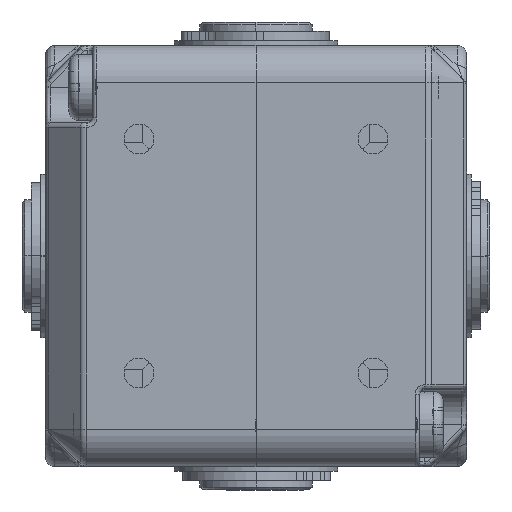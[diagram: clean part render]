
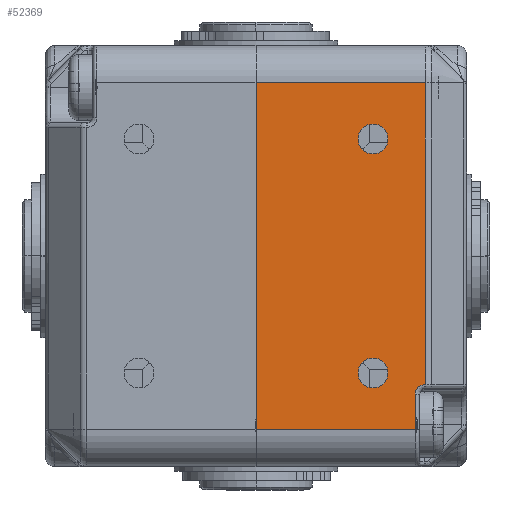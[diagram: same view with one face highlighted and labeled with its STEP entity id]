
A CAD part, front view. The second image highlights one B-rep face of the part: STEP entity #52369.
In plain terms, the highlighted planar face has unit normal (0, -1, 0).
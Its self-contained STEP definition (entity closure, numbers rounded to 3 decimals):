
#88 = VERTEX_POINT ( 'NONE', #4644 ) ;
#471 = DIRECTION ( 'NONE',  ( 0., 1., 0. ) ) ;
#692 = DIRECTION ( 'NONE',  ( 1., 0., 0. ) ) ;
#819 = DIRECTION ( 'NONE',  ( -1., 0., 0. ) ) ;
#1059 = CARTESIAN_POINT ( 'NONE',  ( 11.796, -63.934, -14.264 ) ) ;
#1251 = CARTESIAN_POINT ( 'NONE',  ( 11.96, -63.934, -14.046 ) ) ;
#1260 = CARTESIAN_POINT ( 'NONE',  ( 12.756, -63.934, 18.5 ) ) ;
#1415 = DIRECTION ( 'NONE',  ( 0., 0., 1. ) ) ;
#2126 = EDGE_CURVE ( 'NONE', #24382, #6854, #22693, .T. ) ;
#2215 = LINE ( 'NONE', #11798, #24566 ) ;
#2259 = VERTEX_POINT ( 'NONE', #38461 ) ;
#2901 = DIRECTION ( 'NONE',  ( 0., 1., 0. ) ) ;
#3398 = CARTESIAN_POINT ( 'NONE',  ( 12.67, -63.934, -13.75 ) ) ;
#3869 = FACE_BOUND ( 'NONE', #4847, .T. ) ;
#4009 = VERTEX_POINT ( 'NONE', #5147 ) ;
#4644 = CARTESIAN_POINT ( 'NONE',  ( 7.17, -63.934, -10.9 ) ) ;
#4847 = EDGE_LOOP ( 'NONE', ( #9880, #18054 ) ) ;
#4964 = B_SPLINE_CURVE_WITH_KNOTS ( 'NONE', 3,
 ( #5027, #30271, #38736, #13480, #42866, #17739, #47081, #22019, #51296, #26222, #1059, #30446, #5221, #34660, #9403, #38918, #13670, #43053, #17928, #47278, #22205, #51476, #26420, #1251, #30641, #5385, #34855, #9576, #39098, #13846, #43242 ),
 .UNSPECIFIED., .F., .F.,
 ( 4, 1, 1, 1, 2, 2, 1, 1, 1, 1, 2, 2, 1, 1, 1, 1, 2, 2, 2, 2, 4 ),
 ( 0., 0.062, 0.094, 0.109, 0.117, 0.125, 0.187, 0.219, 0.234, 0.242, 0.246, 0.25, 0.375, 0.437, 0.469, 0.484, 0.492, 0.5, 0.625, 0.75, 1. ),
 .UNSPECIFIED. ) ;
#5027 = CARTESIAN_POINT ( 'NONE',  ( 11.67, -63.934, -14.75 ) ) ;
#5147 = CARTESIAN_POINT ( 'NONE',  ( -5.33, -63.934, 18.5 ) ) ;
#5221 = CARTESIAN_POINT ( 'NONE',  ( 11.823, -63.934, -14.218 ) ) ;
#5385 = CARTESIAN_POINT ( 'NONE',  ( 12.06, -63.934, -13.955 ) ) ;
#5677 = VERTEX_POINT ( 'NONE', #22619 ) ;
#6854 = VERTEX_POINT ( 'NONE', #29873 ) ;
#7909 = CIRCLE ( 'NONE', #37996, 1.6 ) ;
#8032 = VECTOR ( 'NONE', #19936, 1000. ) ;
#9403 = CARTESIAN_POINT ( 'NONE',  ( 11.83, -63.934, -14.207 ) ) ;
#9561 = AXIS2_PLACEMENT_3D ( 'NONE', #25615, #471, #29837 ) ;
#9576 = CARTESIAN_POINT ( 'NONE',  ( 12.227, -63.934, -13.851 ) ) ;
#9880 = ORIENTED_EDGE ( 'NONE', *, *, #34187, .T. ) ;
#10077 = VECTOR ( 'NONE', #51013, 1000. ) ;
#10082 = DIRECTION ( 'NONE',  ( 0., 0., -1. ) ) ;
#10278 = ORIENTED_EDGE ( 'NONE', *, *, #10665, .F. ) ;
#10665 = EDGE_CURVE ( 'NONE', #45293, #6854, #21972, .T. ) ;
#11467 = VERTEX_POINT ( 'NONE', #33647 ) ;
#11505 = DIRECTION ( 'NONE',  ( 0., 1., 0. ) ) ;
#11798 = CARTESIAN_POINT ( 'NONE',  ( 3.713, -63.934, -18.5 ) ) ;
#12570 = AXIS2_PLACEMENT_3D ( 'NONE', #39688, #14454, #43841 ) ;
#13480 = CARTESIAN_POINT ( 'NONE',  ( 11.697, -63.934, -14.515 ) ) ;
#13606 = CARTESIAN_POINT ( 'NONE',  ( 11.67, -63.934, -14.75 ) ) ;
#13670 = CARTESIAN_POINT ( 'NONE',  ( 11.851, -63.934, -14.174 ) ) ;
#13846 = CARTESIAN_POINT ( 'NONE',  ( 12.538, -63.934, -13.75 ) ) ;
#14110 = VECTOR ( 'NONE', #10082, 1000. ) ;
#14454 = DIRECTION ( 'NONE',  ( 0., 1., 0. ) ) ;
#16787 = EDGE_CURVE ( 'NONE', #4009, #29142, #25338, .T. ) ;
#16856 = ORIENTED_EDGE ( 'NONE', *, *, #2126, .T. ) ;
#17739 = CARTESIAN_POINT ( 'NONE',  ( 11.717, -63.934, -14.447 ) ) ;
#17928 = CARTESIAN_POINT ( 'NONE',  ( 11.921, -63.934, -14.087 ) ) ;
#18054 = ORIENTED_EDGE ( 'NONE', *, *, #38906, .T. ) ;
#18189 = EDGE_CURVE ( 'NONE', #29142, #5677, #2215, .T. ) ;
#19816 = VERTEX_POINT ( 'NONE', #32435 ) ;
#19936 = DIRECTION ( 'NONE',  ( 0., 0., -1. ) ) ;
#21051 = ORIENTED_EDGE ( 'NONE', *, *, #29607, .T. ) ;
#21122 = VERTEX_POINT ( 'NONE', #13606 ) ;
#21607 = LINE ( 'NONE', #47019, #43883 ) ;
#21972 = LINE ( 'NONE', #32634, #8032 ) ;
#22019 = CARTESIAN_POINT ( 'NONE',  ( 11.724, -63.934, -14.425 ) ) ;
#22205 = CARTESIAN_POINT ( 'NONE',  ( 11.952, -63.934, -14.054 ) ) ;
#22331 = LINE ( 'NONE', #30800, #33476 ) ;
#22619 = CARTESIAN_POINT ( 'NONE',  ( 11.67, -63.934, -18.5 ) ) ;
#22693 = LINE ( 'NONE', #52715, #10077 ) ;
#23515 = ORIENTED_EDGE ( 'NONE', *, *, #39395, .T. ) ;
#24382 = VERTEX_POINT ( 'NONE', #3398 ) ;
#24566 = VECTOR ( 'NONE', #41242, 1000. ) ;
#24936 = FACE_BOUND ( 'NONE', #51475, .T. ) ;
#25338 = LINE ( 'NONE', #51994, #14110 ) ;
#25615 = CARTESIAN_POINT ( 'NONE',  ( 7.17, -63.934, 12.5 ) ) ;
#25832 = DIRECTION ( 'NONE',  ( 0., -1., 0. ) ) ;
#26182 = ORIENTED_EDGE ( 'NONE', *, *, #27716, .T. ) ;
#26222 = CARTESIAN_POINT ( 'NONE',  ( 11.762, -63.934, -14.326 ) ) ;
#26420 = CARTESIAN_POINT ( 'NONE',  ( 11.96, -63.934, -14.046 ) ) ;
#27716 = EDGE_CURVE ( 'NONE', #45293, #4009, #21607, .T. ) ;
#28107 = CARTESIAN_POINT ( 'NONE',  ( 7.17, -63.934, -12.5 ) ) ;
#28680 = EDGE_LOOP ( 'NONE', ( #30795, #33263, #44165, #50138, #16856, #10278, #26182 ) ) ;
#29142 = VERTEX_POINT ( 'NONE', #43894 ) ;
#29607 = EDGE_CURVE ( 'NONE', #2259, #88, #51770, .T. ) ;
#29837 = DIRECTION ( 'NONE',  ( 0., 0., -1. ) ) ;
#29873 = CARTESIAN_POINT ( 'NONE',  ( 12.756, -63.934, -13.75 ) ) ;
#30271 = CARTESIAN_POINT ( 'NONE',  ( 11.67, -63.934, -14.694 ) ) ;
#30446 = CARTESIAN_POINT ( 'NONE',  ( 11.814, -63.934, -14.233 ) ) ;
#30641 = CARTESIAN_POINT ( 'NONE',  ( 12.009, -63.934, -13.996 ) ) ;
#30795 = ORIENTED_EDGE ( 'NONE', *, *, #16787, .T. ) ;
#30800 = CARTESIAN_POINT ( 'NONE',  ( 11.67, -63.934, 0. ) ) ;
#32335 = DIRECTION ( 'NONE',  ( 0., 0., -1. ) ) ;
#32435 = CARTESIAN_POINT ( 'NONE',  ( 7.17, -63.934, 10.9 ) ) ;
#32634 = CARTESIAN_POINT ( 'NONE',  ( 12.756, -63.934, 2.375 ) ) ;
#33077 = AXIS2_PLACEMENT_3D ( 'NONE', #28107, #2901, #32335 ) ;
#33263 = ORIENTED_EDGE ( 'NONE', *, *, #18189, .T. ) ;
#33476 = VECTOR ( 'NONE', #1415, 1000. ) ;
#33647 = CARTESIAN_POINT ( 'NONE',  ( 7.17, -63.934, 14.1 ) ) ;
#34187 = EDGE_CURVE ( 'NONE', #19816, #11467, #47403, .T. ) ;
#34247 = CIRCLE ( 'NONE', #33077, 1.6 ) ;
#34660 = CARTESIAN_POINT ( 'NONE',  ( 11.827, -63.934, -14.212 ) ) ;
#34855 = CARTESIAN_POINT ( 'NONE',  ( 12.168, -63.934, -13.882 ) ) ;
#36744 = CARTESIAN_POINT ( 'NONE',  ( 7.17, -63.934, 12.5 ) ) ;
#37996 = AXIS2_PLACEMENT_3D ( 'NONE', #36744, #11505, #40948 ) ;
#38461 = CARTESIAN_POINT ( 'NONE',  ( 7.17, -63.934, -14.1 ) ) ;
#38736 = CARTESIAN_POINT ( 'NONE',  ( 11.677, -63.934, -14.61 ) ) ;
#38906 = EDGE_CURVE ( 'NONE', #11467, #19816, #7909, .T. ) ;
#38918 = CARTESIAN_POINT ( 'NONE',  ( 11.832, -63.934, -14.204 ) ) ;
#39098 = CARTESIAN_POINT ( 'NONE',  ( 12.408, -63.934, -13.776 ) ) ;
#39395 = EDGE_CURVE ( 'NONE', #88, #2259, #34247, .T. ) ;
#39688 = CARTESIAN_POINT ( 'NONE',  ( 7.17, -63.934, -12.5 ) ) ;
#39704 = EDGE_CURVE ( 'NONE', #21122, #24382, #4964, .T. ) ;
#40025 = AXIS2_PLACEMENT_3D ( 'NONE', #50898, #25832, #692 ) ;
#40887 = EDGE_CURVE ( 'NONE', #5677, #21122, #22331, .T. ) ;
#40948 = DIRECTION ( 'NONE',  ( 0., 0., -1. ) ) ;
#41242 = DIRECTION ( 'NONE',  ( 1., 0., 0. ) ) ;
#42866 = CARTESIAN_POINT ( 'NONE',  ( 11.71, -63.934, -14.467 ) ) ;
#43053 = CARTESIAN_POINT ( 'NONE',  ( 11.882, -63.934, -14.133 ) ) ;
#43242 = CARTESIAN_POINT ( 'NONE',  ( 12.67, -63.934, -13.75 ) ) ;
#43841 = DIRECTION ( 'NONE',  ( 0., 0., -1. ) ) ;
#43883 = VECTOR ( 'NONE', #819, 1000. ) ;
#43894 = CARTESIAN_POINT ( 'NONE',  ( -5.33, -63.934, -18.5 ) ) ;
#44165 = ORIENTED_EDGE ( 'NONE', *, *, #40887, .T. ) ;
#45293 = VERTEX_POINT ( 'NONE', #1260 ) ;
#46710 = PLANE ( 'NONE',  #40025 ) ;
#47019 = CARTESIAN_POINT ( 'NONE',  ( 3.713, -63.934, 18.5 ) ) ;
#47081 = CARTESIAN_POINT ( 'NONE',  ( 11.721, -63.934, -14.434 ) ) ;
#47212 = FACE_OUTER_BOUND ( 'NONE', #28680, .T. ) ;
#47278 = CARTESIAN_POINT ( 'NONE',  ( 11.942, -63.934, -14.065 ) ) ;
#47403 = CIRCLE ( 'NONE', #9561, 1.6 ) ;
#50138 = ORIENTED_EDGE ( 'NONE', *, *, #39704, .T. ) ;
#50898 = CARTESIAN_POINT ( 'NONE',  ( -6.234, -63.934, -20.35 ) ) ;
#51013 = DIRECTION ( 'NONE',  ( 1., 0., 0. ) ) ;
#51296 = CARTESIAN_POINT ( 'NONE',  ( 11.739, -63.934, -14.382 ) ) ;
#51475 = EDGE_LOOP ( 'NONE', ( #21051, #23515 ) ) ;
#51476 = CARTESIAN_POINT ( 'NONE',  ( 11.957, -63.934, -14.049 ) ) ;
#51770 = CIRCLE ( 'NONE', #12570, 1.6 ) ;
#51994 = CARTESIAN_POINT ( 'NONE',  ( -5.33, -63.934, 0. ) ) ;
#52369 = ADVANCED_FACE ( 'NONE', ( #3869, #24936, #47212 ), #46710, .T. ) ;
#52715 = CARTESIAN_POINT ( 'NONE',  ( 3.713, -63.934, -13.75 ) ) ;
